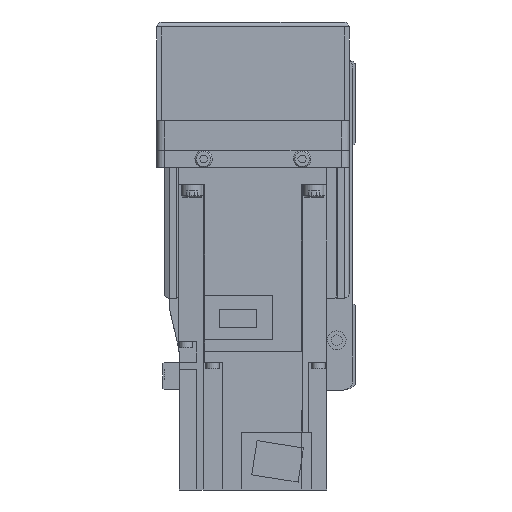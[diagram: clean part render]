
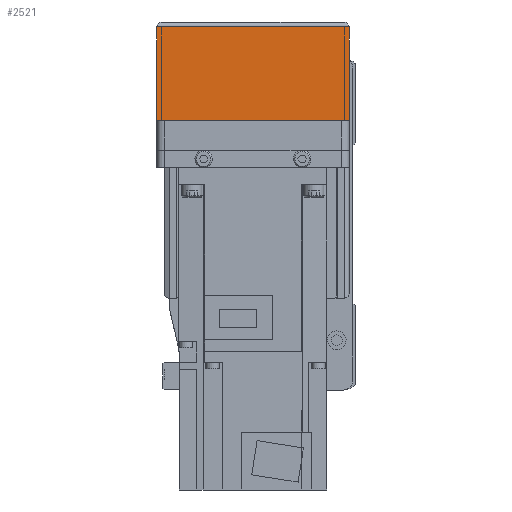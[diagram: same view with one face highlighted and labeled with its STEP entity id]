
A CAD part, left-side view. The second image highlights one B-rep face of the part: STEP entity #2521.
In plain terms, the highlighted planar face has unit normal (-1, 0, 0).
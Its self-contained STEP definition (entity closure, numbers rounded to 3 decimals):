
#2521 = ADVANCED_FACE( '', ( #5538 ), #5539, .F. );
#5538 = FACE_OUTER_BOUND( '', #9031, .T. );
#5539 = PLANE( '', #9032 );
#9031 = EDGE_LOOP( '', ( #15978, #15979, #15980, #15981 ) );
#9032 = AXIS2_PLACEMENT_3D( '', #15982, #15983, #15984 );
#15978 = ORIENTED_EDGE( '', *, *, #22313, .F. );
#15979 = ORIENTED_EDGE( '', *, *, #22314, .F. );
#15980 = ORIENTED_EDGE( '', *, *, #21741, .T. );
#15981 = ORIENTED_EDGE( '', *, *, #22062, .F. );
#15982 = CARTESIAN_POINT( '', ( -158., 36., 7. ) );
#15983 = DIRECTION( '', ( 1., 0., 0. ) );
#15984 = DIRECTION( '', ( 0., 0., -1. ) );
#21741 = EDGE_CURVE( '', #25989, #24724, #26695, .T. );
#22062 = EDGE_CURVE( '', #26020, #24724, #27129, .T. );
#22313 = EDGE_CURVE( '', #27479, #26020, #27480, .T. );
#22314 = EDGE_CURVE( '', #25989, #27479, #27481, .T. );
#24724 = VERTEX_POINT( '', #30816 );
#25989 = VERTEX_POINT( '', #32820 );
#26020 = VERTEX_POINT( '', #32862 );
#26695 = LINE( '', #33912, #33913 );
#27129 = LINE( '', #34627, #34628 );
#27479 = VERTEX_POINT( '', #35185 );
#27480 = LINE( '', #35186, #35187 );
#27481 = LINE( '', #35188, #35189 );
#30816 = CARTESIAN_POINT( '', ( -158., -39., -50. ) );
#32820 = CARTESIAN_POINT( '', ( -158., 39., -50. ) );
#32862 = CARTESIAN_POINT( '', ( -158., -39., -12.1 ) );
#33912 = CARTESIAN_POINT( '', ( -158., 40., -50. ) );
#33913 = VECTOR( '', #39353, 1000. );
#34627 = CARTESIAN_POINT( '', ( -158., -39., -12.1 ) );
#34628 = VECTOR( '', #39694, 1000. );
#35185 = CARTESIAN_POINT( '', ( -158., 39., -12.1 ) );
#35186 = CARTESIAN_POINT( '', ( -158., 50., -12.1 ) );
#35187 = VECTOR( '', #39977, 1000. );
#35188 = CARTESIAN_POINT( '', ( -158., 39., -50. ) );
#35189 = VECTOR( '', #39978, 1000. );
#39353 = DIRECTION( '', ( 0., -1., 0. ) );
#39694 = DIRECTION( '', ( 0., 0., -1. ) );
#39977 = DIRECTION( '', ( 0., -1., 0. ) );
#39978 = DIRECTION( '', ( 0., 0., 1. ) );
